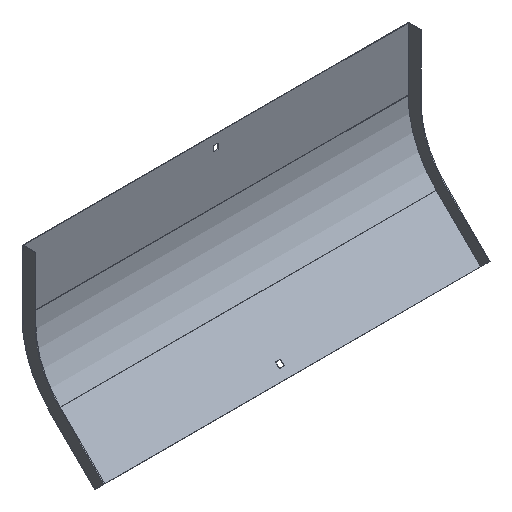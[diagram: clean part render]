
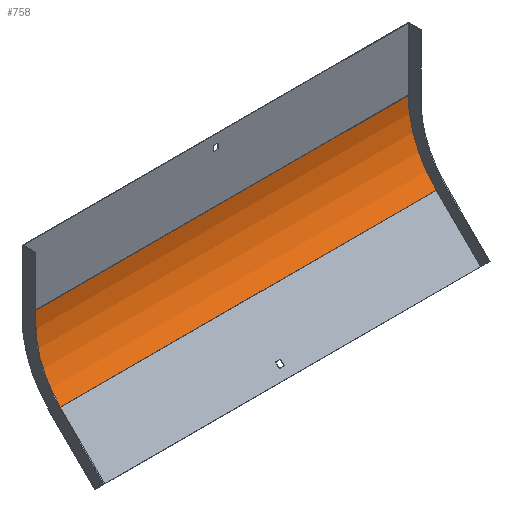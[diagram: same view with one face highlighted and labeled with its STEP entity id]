
A CAD part, isometric view. The second image highlights one B-rep face of the part: STEP entity #758.
In plain terms, the highlighted cylindrical face has radius 125 mm (diameter 250 mm), a partial arc.
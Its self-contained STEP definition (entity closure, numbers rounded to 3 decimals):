
#13 = CIRCLE ( 'NONE', #513, 125. ) ;
#48 = VERTEX_POINT ( 'NONE', #505 ) ;
#49 = DIRECTION ( 'NONE',  ( 0., 0., 1. ) ) ;
#55 = DIRECTION ( 'NONE',  ( 0., 0., 1. ) ) ;
#68 = DIRECTION ( 'NONE',  ( -1., 0., 0. ) ) ;
#91 = AXIS2_PLACEMENT_3D ( 'NONE', #248, #385, #55 ) ;
#127 = DIRECTION ( 'NONE',  ( 0., 0., 1. ) ) ;
#138 = FACE_OUTER_BOUND ( 'NONE', #549, .T. ) ;
#177 = VECTOR ( 'NONE', #593, 1000. ) ;
#213 = CIRCLE ( 'NONE', #91, 125. ) ;
#244 = DIRECTION ( 'NONE',  ( 1., 0., 0. ) ) ;
#246 = VERTEX_POINT ( 'NONE', #788 ) ;
#248 = CARTESIAN_POINT ( 'NONE',  ( -250., -126., -81.421 ) ) ;
#263 = CARTESIAN_POINT ( 'NONE',  ( 251., -37.612, -169.809 ) ) ;
#306 = DIRECTION ( 'NONE',  ( -1., 0., 0. ) ) ;
#316 = EDGE_CURVE ( 'NONE', #246, #48, #13, .T. ) ;
#327 = LINE ( 'NONE', #263, #177 ) ;
#337 = CARTESIAN_POINT ( 'NONE',  ( -250., -37.612, -169.809 ) ) ;
#385 = DIRECTION ( 'NONE',  ( 1., 0., 0. ) ) ;
#404 = VERTEX_POINT ( 'NONE', #734 ) ;
#406 = CARTESIAN_POINT ( 'NONE',  ( 251., -126., -81.421 ) ) ;
#505 = CARTESIAN_POINT ( 'NONE',  ( 250., -1., -81.421 ) ) ;
#513 = AXIS2_PLACEMENT_3D ( 'NONE', #774, #244, #49 ) ;
#530 = AXIS2_PLACEMENT_3D ( 'NONE', #406, #68, #127 ) ;
#539 = CYLINDRICAL_SURFACE ( 'NONE', #530, 125. ) ;
#542 = VECTOR ( 'NONE', #306, 1000. ) ;
#547 = ORIENTED_EDGE ( 'NONE', *, *, #620, .F. ) ;
#549 = EDGE_LOOP ( 'NONE', ( #547, #619, #745, #584 ) ) ;
#584 = ORIENTED_EDGE ( 'NONE', *, *, #680, .T. ) ;
#593 = DIRECTION ( 'NONE',  ( -1., 0., 0. ) ) ;
#619 = ORIENTED_EDGE ( 'NONE', *, *, #789, .F. ) ;
#620 = EDGE_CURVE ( 'NONE', #844, #404, #213, .T. ) ;
#680 = EDGE_CURVE ( 'NONE', #48, #404, #845, .T. ) ;
#734 = CARTESIAN_POINT ( 'NONE',  ( -250., -1., -81.421 ) ) ;
#745 = ORIENTED_EDGE ( 'NONE', *, *, #316, .T. ) ;
#758 = ADVANCED_FACE ( 'NONE', ( #138 ), #539, .F. ) ;
#774 = CARTESIAN_POINT ( 'NONE',  ( 250., -126., -81.421 ) ) ;
#788 = CARTESIAN_POINT ( 'NONE',  ( 250., -37.612, -169.809 ) ) ;
#789 = EDGE_CURVE ( 'NONE', #246, #844, #327, .T. ) ;
#844 = VERTEX_POINT ( 'NONE', #337 ) ;
#845 = LINE ( 'NONE', #847, #542 ) ;
#847 = CARTESIAN_POINT ( 'NONE',  ( 251., -1., -81.421 ) ) ;
